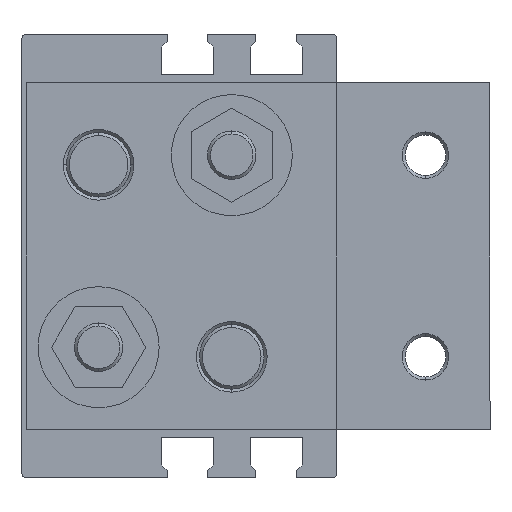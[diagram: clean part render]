
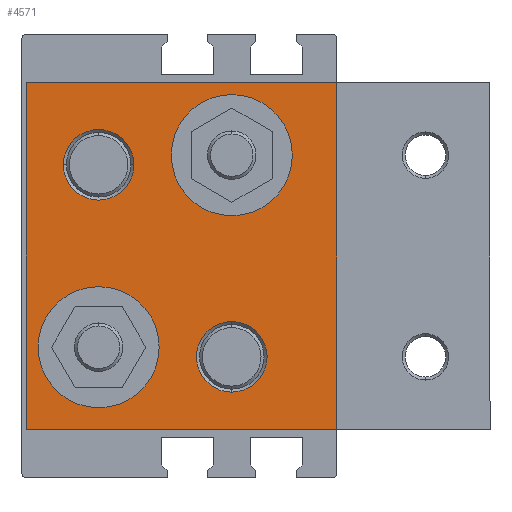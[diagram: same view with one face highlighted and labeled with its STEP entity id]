
A CAD part, left-side view. The second image highlights one B-rep face of the part: STEP entity #4571.
In plain terms, the highlighted planar face has unit normal (-1, 0, 0) as drawn and (1, 0, 0) by its records, which use the part's own axes.
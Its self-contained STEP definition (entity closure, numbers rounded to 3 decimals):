
#49 = DIRECTION ( 'NONE',  ( 1., 0., 0. ) ) ;
#75 = DIRECTION ( 'NONE',  ( 0., 1., 0. ) ) ;
#111 = EDGE_LOOP ( 'NONE', ( #2975, #6820 ) ) ;
#175 = EDGE_LOOP ( 'NONE', ( #1215, #4623 ) ) ;
#253 = DIRECTION ( 'NONE',  ( 0., -1., 0. ) ) ;
#299 = CARTESIAN_POINT ( 'NONE',  ( 13., -38.5, 21.5 ) ) ;
#304 = VERTEX_POINT ( 'NONE', #6634 ) ;
#333 = VECTOR ( 'NONE', #1988, 1000. ) ;
#351 = AXIS2_PLACEMENT_3D ( 'NONE', #7278, #3675, #75 ) ;
#602 = AXIS2_PLACEMENT_3D ( 'NONE', #6532, #1148, #7773 ) ;
#694 = CARTESIAN_POINT ( 'NONE',  ( 13., -25.5, -12.5 ) ) ;
#765 = EDGE_CURVE ( 'NONE', #7218, #6824, #992, .T. ) ;
#821 = VERTEX_POINT ( 'NONE', #2495 ) ;
#902 = CIRCLE ( 'NONE', #3856, 4.375 ) ;
#992 = CIRCLE ( 'NONE', #351, 4.375 ) ;
#1140 = AXIS2_PLACEMENT_3D ( 'NONE', #3656, #49, #4264 ) ;
#1148 = DIRECTION ( 'NONE',  ( -1., 0., 0. ) ) ;
#1195 = CIRCLE ( 'NONE', #4031, 7.5 ) ;
#1215 = ORIENTED_EDGE ( 'NONE', *, *, #6808, .F. ) ;
#1258 = FACE_BOUND ( 'NONE', #111, .T. ) ;
#1292 = LINE ( 'NONE', #4823, #4469 ) ;
#1294 = VERTEX_POINT ( 'NONE', #4164 ) ;
#1313 = DIRECTION ( 'NONE',  ( 0., 1., 0. ) ) ;
#1398 = ORIENTED_EDGE ( 'NONE', *, *, #2604, .F. ) ;
#1427 = DIRECTION ( 'NONE',  ( 0., -1., 0. ) ) ;
#1625 = AXIS2_PLACEMENT_3D ( 'NONE', #6101, #2502, #6697 ) ;
#1628 = AXIS2_PLACEMENT_3D ( 'NONE', #694, #4894, #1313 ) ;
#1706 = EDGE_CURVE ( 'NONE', #7422, #5703, #2119, .T. ) ;
#1712 = CARTESIAN_POINT ( 'NONE',  ( 13., -33., -12.5 ) ) ;
#1716 = EDGE_LOOP ( 'NONE', ( #2047, #7447 ) ) ;
#1750 = VECTOR ( 'NONE', #253, 1000. ) ;
#1843 = ORIENTED_EDGE ( 'NONE', *, *, #2985, .F. ) ;
#1937 = CARTESIAN_POINT ( 'NONE',  ( 13., -9., 11.3 ) ) ;
#1988 = DIRECTION ( 'NONE',  ( 0., 0., -1. ) ) ;
#2047 = ORIENTED_EDGE ( 'NONE', *, *, #5819, .F. ) ;
#2119 = LINE ( 'NONE', #299, #333 ) ;
#2190 = DIRECTION ( 'NONE',  ( 1., 0., 0. ) ) ;
#2194 = CARTESIAN_POINT ( 'NONE',  ( 13., -9., -11.3 ) ) ;
#2452 = ORIENTED_EDGE ( 'NONE', *, *, #7276, .F. ) ;
#2495 = CARTESIAN_POINT ( 'NONE',  ( 13., 0., 21.5 ) ) ;
#2502 = DIRECTION ( 'NONE',  ( 1., 0., 0. ) ) ;
#2554 = DIRECTION ( 'NONE',  ( 0., 1., 0. ) ) ;
#2604 = EDGE_CURVE ( 'NONE', #4880, #1294, #902, .T. ) ;
#2650 = AXIS2_PLACEMENT_3D ( 'NONE', #2194, #6406, #2811 ) ;
#2666 = CARTESIAN_POINT ( 'NONE',  ( 13., -18., -12.5 ) ) ;
#2692 = CARTESIAN_POINT ( 'NONE',  ( 13., -25.5, 12.5 ) ) ;
#2811 = DIRECTION ( 'NONE',  ( 0., 1., 0. ) ) ;
#2836 = FACE_BOUND ( 'NONE', #3609, .T. ) ;
#2865 = CIRCLE ( 'NONE', #1140, 4.375 ) ;
#2971 = EDGE_CURVE ( 'NONE', #4966, #821, #1292, .T. ) ;
#2975 = ORIENTED_EDGE ( 'NONE', *, *, #3500, .F. ) ;
#2985 = EDGE_CURVE ( 'NONE', #1294, #4880, #2865, .T. ) ;
#3101 = CIRCLE ( 'NONE', #1628, 7.5 ) ;
#3141 = VECTOR ( 'NONE', #1427, 1000. ) ;
#3174 = EDGE_LOOP ( 'NONE', ( #5134, #5060, #6818, #2452 ) ) ;
#3225 = FACE_OUTER_BOUND ( 'NONE', #3174, .T. ) ;
#3281 = VERTEX_POINT ( 'NONE', #2666 ) ;
#3296 = DIRECTION ( 'NONE',  ( 0., 0., -1. ) ) ;
#3500 = EDGE_CURVE ( 'NONE', #304, #3682, #6905, .T. ) ;
#3609 = EDGE_LOOP ( 'NONE', ( #1843, #1398 ) ) ;
#3656 = CARTESIAN_POINT ( 'NONE',  ( 13., -25.5, 12.5 ) ) ;
#3675 = DIRECTION ( 'NONE',  ( 1., 0., 0. ) ) ;
#3682 = VERTEX_POINT ( 'NONE', #3943 ) ;
#3856 = AXIS2_PLACEMENT_3D ( 'NONE', #2692, #6896, #3296 ) ;
#3943 = CARTESIAN_POINT ( 'NONE',  ( 13., -16.5, 11.3 ) ) ;
#4031 = AXIS2_PLACEMENT_3D ( 'NONE', #5799, #2190, #6401 ) ;
#4164 = CARTESIAN_POINT ( 'NONE',  ( 13., -25.5, 8.125 ) ) ;
#4264 = DIRECTION ( 'NONE',  ( 0., 0., -1. ) ) ;
#4469 = VECTOR ( 'NONE', #6503, 1000. ) ;
#4571 = ADVANCED_FACE ( 'NONE', ( #3225, #1258, #7632, #2836, #6223 ), #6564, .F. ) ;
#4623 = ORIENTED_EDGE ( 'NONE', *, *, #765, .F. ) ;
#4823 = CARTESIAN_POINT ( 'NONE',  ( 13., 0., 21.5 ) ) ;
#4880 = VERTEX_POINT ( 'NONE', #7484 ) ;
#4894 = DIRECTION ( 'NONE',  ( 1., 0., 0. ) ) ;
#4966 = VERTEX_POINT ( 'NONE', #7553 ) ;
#4996 = CARTESIAN_POINT ( 'NONE',  ( 13., -13.375, -11.3 ) ) ;
#5059 = CARTESIAN_POINT ( 'NONE',  ( 13., 0., 21.5 ) ) ;
#5060 = ORIENTED_EDGE ( 'NONE', *, *, #6448, .T. ) ;
#5134 = ORIENTED_EDGE ( 'NONE', *, *, #2971, .T. ) ;
#5136 = LINE ( 'NONE', #5059, #1750 ) ;
#5147 = VERTEX_POINT ( 'NONE', #1712 ) ;
#5383 = CIRCLE ( 'NONE', #5966, 7.5 ) ;
#5703 = VERTEX_POINT ( 'NONE', #7030 ) ;
#5799 = CARTESIAN_POINT ( 'NONE',  ( 13., -25.5, -12.5 ) ) ;
#5819 = EDGE_CURVE ( 'NONE', #3281, #5147, #3101, .T. ) ;
#5966 = AXIS2_PLACEMENT_3D ( 'NONE', #1937, #6150, #2554 ) ;
#6091 = CIRCLE ( 'NONE', #2650, 4.375 ) ;
#6101 = CARTESIAN_POINT ( 'NONE',  ( 13., -9., 11.3 ) ) ;
#6150 = DIRECTION ( 'NONE',  ( 1., 0., 0. ) ) ;
#6223 = FACE_BOUND ( 'NONE', #175, .T. ) ;
#6320 = LINE ( 'NONE', #7453, #3141 ) ;
#6401 = DIRECTION ( 'NONE',  ( 0., 1., 0. ) ) ;
#6406 = DIRECTION ( 'NONE',  ( 1., 0., 0. ) ) ;
#6448 = EDGE_CURVE ( 'NONE', #821, #7422, #5136, .T. ) ;
#6503 = DIRECTION ( 'NONE',  ( 0., 0., 1. ) ) ;
#6532 = CARTESIAN_POINT ( 'NONE',  ( 13., -38.5, 21.5 ) ) ;
#6564 = PLANE ( 'NONE',  #602 ) ;
#6566 = EDGE_CURVE ( 'NONE', #5147, #3281, #1195, .T. ) ;
#6634 = CARTESIAN_POINT ( 'NONE',  ( 13., -1.5, 11.3 ) ) ;
#6697 = DIRECTION ( 'NONE',  ( 0., 1., 0. ) ) ;
#6808 = EDGE_CURVE ( 'NONE', #6824, #7218, #6091, .T. ) ;
#6818 = ORIENTED_EDGE ( 'NONE', *, *, #1706, .T. ) ;
#6820 = ORIENTED_EDGE ( 'NONE', *, *, #7500, .F. ) ;
#6824 = VERTEX_POINT ( 'NONE', #7020 ) ;
#6896 = DIRECTION ( 'NONE',  ( 1., 0., 0. ) ) ;
#6905 = CIRCLE ( 'NONE', #1625, 7.5 ) ;
#7007 = CARTESIAN_POINT ( 'NONE',  ( 13., -38.5, 21.5 ) ) ;
#7020 = CARTESIAN_POINT ( 'NONE',  ( 13., -4.625, -11.3 ) ) ;
#7030 = CARTESIAN_POINT ( 'NONE',  ( 13., -38.5, -21.5 ) ) ;
#7218 = VERTEX_POINT ( 'NONE', #4996 ) ;
#7276 = EDGE_CURVE ( 'NONE', #4966, #5703, #6320, .T. ) ;
#7278 = CARTESIAN_POINT ( 'NONE',  ( 13., -9., -11.3 ) ) ;
#7422 = VERTEX_POINT ( 'NONE', #7007 ) ;
#7447 = ORIENTED_EDGE ( 'NONE', *, *, #6566, .F. ) ;
#7453 = CARTESIAN_POINT ( 'NONE',  ( 13., 0., -21.5 ) ) ;
#7484 = CARTESIAN_POINT ( 'NONE',  ( 13., -25.5, 16.875 ) ) ;
#7500 = EDGE_CURVE ( 'NONE', #3682, #304, #5383, .T. ) ;
#7553 = CARTESIAN_POINT ( 'NONE',  ( 13., 0., -21.5 ) ) ;
#7632 = FACE_BOUND ( 'NONE', #1716, .T. ) ;
#7773 = DIRECTION ( 'NONE',  ( 0., 0., 1. ) ) ;
